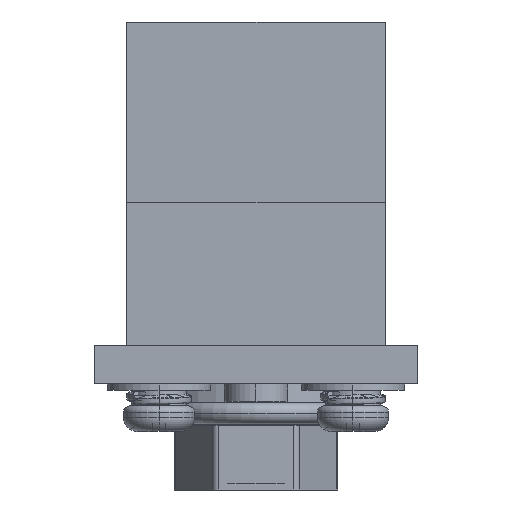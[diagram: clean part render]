
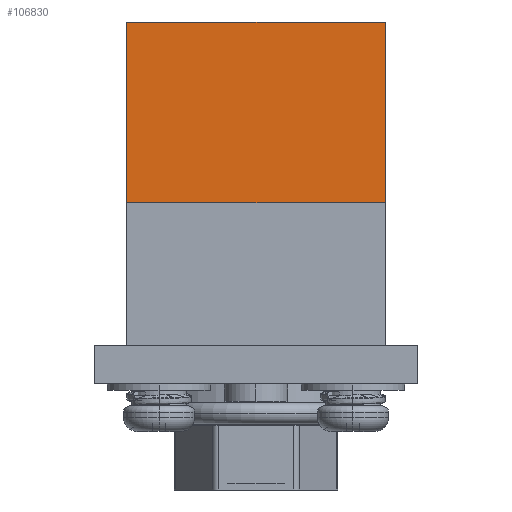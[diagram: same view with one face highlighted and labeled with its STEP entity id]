
A CAD part, left-side view. The second image highlights one B-rep face of the part: STEP entity #106830.
In plain terms, the highlighted planar face has unit normal (-1, 0, 0).
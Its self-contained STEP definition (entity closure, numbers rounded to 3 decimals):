
#104610=CARTESIAN_POINT('',(-27.488,66.46,28.));
#104620=VERTEX_POINT('',#104610);
#104670=CARTESIAN_POINT('',(-27.488,66.46,14.));
#104680=DIRECTION('',(0.,0.,1.));
#104690=VECTOR('',#104680,1.);
#104700=LINE('',#104670,#104690);
#104710=CARTESIAN_POINT('',(-27.488,66.46,14.));
#104720=VERTEX_POINT('',#104710);
#104730=EDGE_CURVE('',#104720,#104620,#104700,.T.);
#105430=CARTESIAN_POINT('',(-27.488,46.46,14.));
#105440=VERTEX_POINT('',#105430);
#105470=CARTESIAN_POINT('',(-27.488,46.46,14.));
#105480=DIRECTION('',(0.,0.,1.));
#105490=VECTOR('',#105480,1.);
#105500=LINE('',#105470,#105490);
#105510=CARTESIAN_POINT('',(-27.488,46.46,28.));
#105520=VERTEX_POINT('',#105510);
#105530=EDGE_CURVE('',#105440,#105520,#105500,.T.);
#106410=CARTESIAN_POINT('',(-27.488,66.46,14.));
#106420=DIRECTION('',(-0.,-1.,0.));
#106430=VECTOR('',#106420,1.);
#106440=LINE('',#106410,#106430);
#106450=EDGE_CURVE('',#104720,#105440,#106440,.T.);
#106670=CARTESIAN_POINT('',(-27.488,66.46,28.));
#106680=DIRECTION('',(1.,0.,-0.));
#106690=DIRECTION('',(0.,0.,1.));
#106700=AXIS2_PLACEMENT_3D('',#106670,#106680,#106690);
#106710=PLANE('',#106700);
#106720=ORIENTED_EDGE('',*,*,#104730,.F.);
#106730=CARTESIAN_POINT('',(-27.488,66.46,28.));
#106740=DIRECTION('',(-0.,-1.,0.));
#106750=VECTOR('',#106740,1.);
#106760=LINE('',#106730,#106750);
#106770=EDGE_CURVE('',#104620,#105520,#106760,.T.);
#106780=ORIENTED_EDGE('',*,*,#106770,.F.);
#106790=ORIENTED_EDGE('',*,*,#105530,.T.);
#106800=ORIENTED_EDGE('',*,*,#106450,.T.);
#106810=EDGE_LOOP('',(#106800,#106790,#106780,#106720));
#106820=FACE_OUTER_BOUND('',#106810,.T.);
#106830=ADVANCED_FACE('',(#106820),#106710,.F.);
